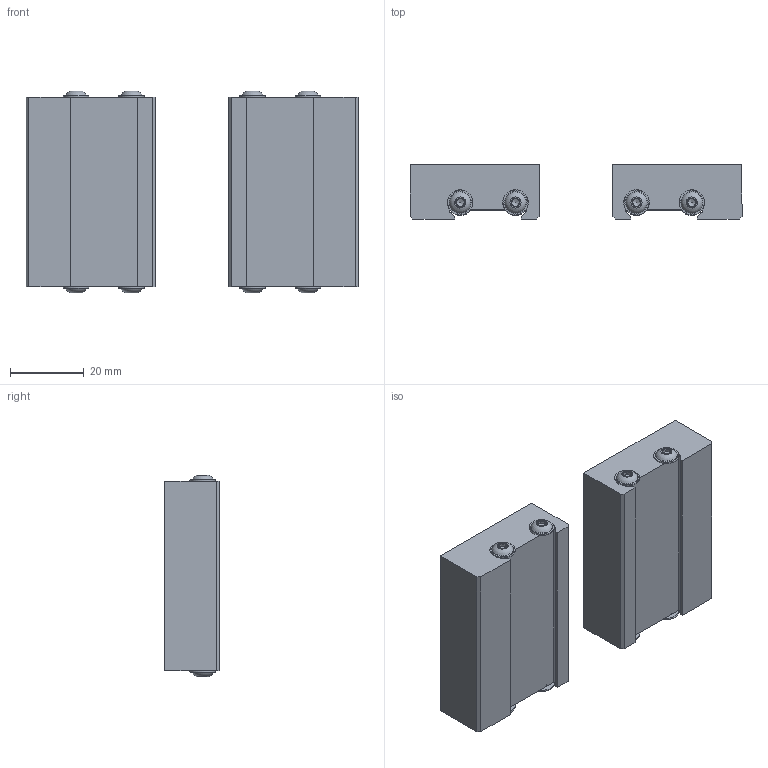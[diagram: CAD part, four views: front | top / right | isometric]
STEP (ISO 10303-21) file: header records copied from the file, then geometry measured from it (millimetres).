
FILE_DESCRIPTION (( 'STEP AP214' ), '1' );
FILE_NAME ('VSJ-V52Q.STEP', '2026-09-29T19:06:09', ( '' ), ( '' ), 'SwSTEP 2.0', 'SolidWorks 2024', '' );
FILE_SCHEMA (( 'AUTOMOTIVE_DESIGN' ));
Length unit declared in the file: millimetre
Products named in the file (3): VSJ-V52Q; VSJ-V52Q-1; M3X8.BH.SHCS.10.9.BL_92137A250
Assembly tree (10 placements, depth 2):
  VSJ-V52Q
    VSJ-V52Q-1  x2
    M3X8.BH.SHCS.10.9.BL_92137A250  x8
Bounding box: 90 x 14.75 x 54.68 mm (x, y, z)
Volume: 48040.6 mm3; surface area: 15344.2 mm2
Topology: 10 solids, 10 shells, 328 faces, 784 edges, 516 vertices
Faces by surface type: plane 180, cylinder 44, cone 40, torus 32, bspline 32
Full cylindrical faces by diameter (mm): 2.5 x8, 3 x8, 3.15 x8, 3.429 x8
Entity records: 4112 total; most frequent: CARTESIAN_POINT 2491, DIRECTION 318, ORIENTED_EDGE 256, AXIS2_PLACEMENT_3D 128, EDGE_CURVE 128, EDGE_LOOP 107, VERTEX_POINT 97, FACE_OUTER_BOUND 89
